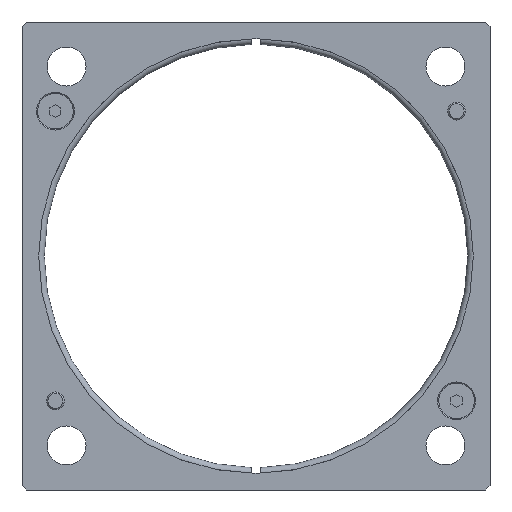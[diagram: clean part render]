
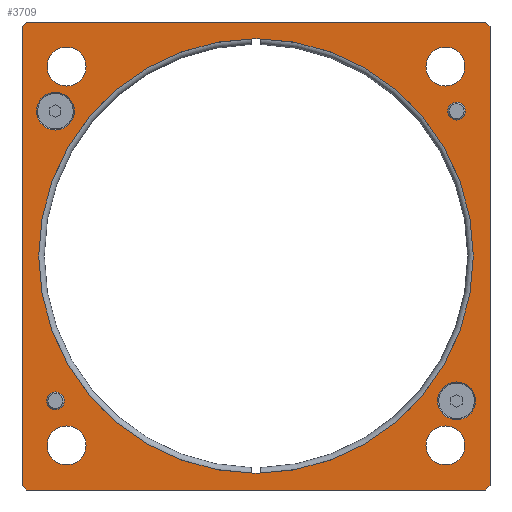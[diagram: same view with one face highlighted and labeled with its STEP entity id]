
A CAD part, front view. The second image highlights one B-rep face of the part: STEP entity #3709.
In plain terms, the highlighted planar face has unit normal (0, -1, 0) as drawn and (0, 0, -1) by its records, which use the part's own axes.
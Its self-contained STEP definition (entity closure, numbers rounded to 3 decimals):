
#142=FACE_BOUND('',#445,.T.);
#143=FACE_BOUND('',#446,.T.);
#144=FACE_BOUND('',#447,.T.);
#145=FACE_BOUND('',#448,.T.);
#146=FACE_BOUND('',#449,.T.);
#147=FACE_BOUND('',#450,.T.);
#148=FACE_BOUND('',#451,.T.);
#149=FACE_BOUND('',#452,.T.);
#150=FACE_BOUND('',#453,.T.);
#176=CIRCLE('',#3991,97.5);
#184=CIRCLE('',#4001,8.5);
#186=CIRCLE('',#4004,8.5);
#187=CIRCLE('',#4005,4.);
#188=CIRCLE('',#4006,4.);
#189=CIRCLE('',#4007,8.75);
#190=CIRCLE('',#4008,8.75);
#191=CIRCLE('',#4009,8.75);
#192=CIRCLE('',#4010,8.75);
#234=FACE_OUTER_BOUND('',#444,.T.);
#444=EDGE_LOOP('',(#2510,#2511,#2512,#2513,#2514,#2515,#2516,#2517));
#445=EDGE_LOOP('',(#2518));
#446=EDGE_LOOP('',(#2519));
#447=EDGE_LOOP('',(#2520));
#448=EDGE_LOOP('',(#2521));
#449=EDGE_LOOP('',(#2522));
#450=EDGE_LOOP('',(#2523));
#451=EDGE_LOOP('',(#2524));
#452=EDGE_LOOP('',(#2525));
#453=EDGE_LOOP('',(#2526));
#687=LINE('',#4952,#1030);
#688=LINE('',#4954,#1031);
#689=LINE('',#4956,#1032);
#690=LINE('',#4958,#1033);
#691=LINE('',#4960,#1034);
#692=LINE('',#4962,#1035);
#693=LINE('',#4964,#1036);
#694=LINE('',#4965,#1037);
#1030=VECTOR('',#4201,10.);
#1031=VECTOR('',#4202,10.);
#1032=VECTOR('',#4203,10.);
#1033=VECTOR('',#4204,10.);
#1034=VECTOR('',#4205,10.);
#1035=VECTOR('',#4206,10.);
#1036=VECTOR('',#4207,10.);
#1037=VECTOR('',#4208,10.);
#1552=VERTEX_POINT('',#4928);
#1556=VERTEX_POINT('',#4944);
#1558=VERTEX_POINT('',#4950);
#1559=VERTEX_POINT('',#4951);
#1560=VERTEX_POINT('',#4953);
#1561=VERTEX_POINT('',#4955);
#1562=VERTEX_POINT('',#4957);
#1563=VERTEX_POINT('',#4959);
#1564=VERTEX_POINT('',#4961);
#1565=VERTEX_POINT('',#4963);
#1566=VERTEX_POINT('',#4966);
#1567=VERTEX_POINT('',#4968);
#1568=VERTEX_POINT('',#4970);
#1569=VERTEX_POINT('',#4972);
#1570=VERTEX_POINT('',#4974);
#1571=VERTEX_POINT('',#4976);
#1572=VERTEX_POINT('',#4978);
#1925=EDGE_CURVE('',#1552,#1552,#176,.T.);
#1935=EDGE_CURVE('',#1556,#1556,#184,.T.);
#1938=EDGE_CURVE('',#1558,#1559,#687,.T.);
#1939=EDGE_CURVE('',#1558,#1560,#688,.T.);
#1940=EDGE_CURVE('',#1561,#1560,#689,.T.);
#1941=EDGE_CURVE('',#1561,#1562,#690,.T.);
#1942=EDGE_CURVE('',#1563,#1562,#691,.T.);
#1943=EDGE_CURVE('',#1563,#1564,#692,.T.);
#1944=EDGE_CURVE('',#1565,#1564,#693,.T.);
#1945=EDGE_CURVE('',#1565,#1559,#694,.T.);
#1946=EDGE_CURVE('',#1566,#1566,#186,.T.);
#1947=EDGE_CURVE('',#1567,#1567,#187,.T.);
#1948=EDGE_CURVE('',#1568,#1568,#188,.T.);
#1949=EDGE_CURVE('',#1569,#1569,#189,.T.);
#1950=EDGE_CURVE('',#1570,#1570,#190,.T.);
#1951=EDGE_CURVE('',#1571,#1571,#191,.T.);
#1952=EDGE_CURVE('',#1572,#1572,#192,.T.);
#2510=ORIENTED_EDGE('',*,*,#1938,.F.);
#2511=ORIENTED_EDGE('',*,*,#1939,.T.);
#2512=ORIENTED_EDGE('',*,*,#1940,.F.);
#2513=ORIENTED_EDGE('',*,*,#1941,.T.);
#2514=ORIENTED_EDGE('',*,*,#1942,.F.);
#2515=ORIENTED_EDGE('',*,*,#1943,.T.);
#2516=ORIENTED_EDGE('',*,*,#1944,.F.);
#2517=ORIENTED_EDGE('',*,*,#1945,.T.);
#2518=ORIENTED_EDGE('',*,*,#1946,.F.);
#2519=ORIENTED_EDGE('',*,*,#1947,.T.);
#2520=ORIENTED_EDGE('',*,*,#1948,.T.);
#2521=ORIENTED_EDGE('',*,*,#1925,.T.);
#2522=ORIENTED_EDGE('',*,*,#1949,.T.);
#2523=ORIENTED_EDGE('',*,*,#1950,.T.);
#2524=ORIENTED_EDGE('',*,*,#1951,.T.);
#2525=ORIENTED_EDGE('',*,*,#1952,.T.);
#2526=ORIENTED_EDGE('',*,*,#1935,.F.);
#3604=PLANE('',#4003);
#3709=ADVANCED_FACE('',(#234,#142,#143,#144,#145,#146,#147,#148,#149,#150),
#3604,.F.);
#3991=AXIS2_PLACEMENT_3D('',#4929,#4172,#4173);
#4001=AXIS2_PLACEMENT_3D('',#4945,#4194,#4195);
#4003=AXIS2_PLACEMENT_3D('',#4949,#4199,#4200);
#4004=AXIS2_PLACEMENT_3D('',#4967,#4209,#4210);
#4005=AXIS2_PLACEMENT_3D('',#4969,#4211,#4212);
#4006=AXIS2_PLACEMENT_3D('',#4971,#4213,#4214);
#4007=AXIS2_PLACEMENT_3D('',#4973,#4215,#4216);
#4008=AXIS2_PLACEMENT_3D('',#4975,#4217,#4218);
#4009=AXIS2_PLACEMENT_3D('',#4977,#4219,#4220);
#4010=AXIS2_PLACEMENT_3D('',#4979,#4221,#4222);
#4172=DIRECTION('center_axis',(0.,0.,1.));
#4173=DIRECTION('ref_axis',(-1.,0.,0.));
#4194=DIRECTION('center_axis',(0.,0.,-1.));
#4195=DIRECTION('ref_axis',(1.,0.,0.));
#4199=DIRECTION('center_axis',(0.,0.,1.));
#4200=DIRECTION('ref_axis',(1.,0.,0.));
#4201=DIRECTION('',(-0.707,0.707,0.));
#4202=DIRECTION('',(0.,-1.,0.));
#4203=DIRECTION('',(0.707,0.707,0.));
#4204=DIRECTION('',(-1.,0.,0.));
#4205=DIRECTION('',(0.707,-0.707,0.));
#4206=DIRECTION('',(0.,1.,0.));
#4207=DIRECTION('',(-0.707,-0.707,0.));
#4208=DIRECTION('',(1.,0.,0.));
#4209=DIRECTION('center_axis',(0.,0.,-1.));
#4210=DIRECTION('ref_axis',(1.,0.,0.));
#4211=DIRECTION('center_axis',(0.,0.,1.));
#4212=DIRECTION('ref_axis',(1.,0.,0.));
#4213=DIRECTION('center_axis',(0.,0.,1.));
#4214=DIRECTION('ref_axis',(1.,0.,0.));
#4215=DIRECTION('center_axis',(0.,0.,1.));
#4216=DIRECTION('ref_axis',(-1.,0.,0.));
#4217=DIRECTION('center_axis',(0.,0.,1.));
#4218=DIRECTION('ref_axis',(-1.,0.,0.));
#4219=DIRECTION('center_axis',(0.,0.,1.));
#4220=DIRECTION('ref_axis',(-1.,0.,0.));
#4221=DIRECTION('center_axis',(0.,0.,1.));
#4222=DIRECTION('ref_axis',(-1.,0.,0.));
#4928=CARTESIAN_POINT('',(97.5,0.,0.));
#4929=CARTESIAN_POINT('Origin',(0.,0.,0.));
#4944=CARTESIAN_POINT('',(81.5,65.,0.));
#4945=CARTESIAN_POINT('Origin',(90.,65.,0.));
#4949=CARTESIAN_POINT('Origin',(0.,0.,0.));
#4950=CARTESIAN_POINT('',(105.,103.,0.));
#4951=CARTESIAN_POINT('',(103.,105.,0.));
#4952=CARTESIAN_POINT('',(104.,104.,0.));
#4953=CARTESIAN_POINT('',(105.,-103.,0.));
#4954=CARTESIAN_POINT('',(105.,105.,0.));
#4955=CARTESIAN_POINT('',(103.,-105.,0.));
#4956=CARTESIAN_POINT('',(104.,-104.,0.));
#4957=CARTESIAN_POINT('',(-103.,-105.,0.));
#4958=CARTESIAN_POINT('',(105.,-105.,0.));
#4959=CARTESIAN_POINT('',(-105.,-103.,0.));
#4960=CARTESIAN_POINT('',(-104.,-104.,0.));
#4961=CARTESIAN_POINT('',(-105.,103.,0.));
#4962=CARTESIAN_POINT('',(-105.,-105.,0.));
#4963=CARTESIAN_POINT('',(-103.,105.,0.));
#4964=CARTESIAN_POINT('',(-104.,104.,0.));
#4965=CARTESIAN_POINT('',(-105.,105.,0.));
#4966=CARTESIAN_POINT('',(-98.5,-65.,0.));
#4967=CARTESIAN_POINT('Origin',(-90.,-65.,0.));
#4968=CARTESIAN_POINT('',(86.,-65.,0.));
#4969=CARTESIAN_POINT('Origin',(90.,-65.,0.));
#4970=CARTESIAN_POINT('',(-94.,65.,0.));
#4971=CARTESIAN_POINT('Origin',(-90.,65.,0.));
#4972=CARTESIAN_POINT('',(-76.25,-85.,0.));
#4973=CARTESIAN_POINT('Origin',(-85.,-85.,0.));
#4974=CARTESIAN_POINT('',(93.75,-85.,0.));
#4975=CARTESIAN_POINT('Origin',(85.,-85.,0.));
#4976=CARTESIAN_POINT('',(93.75,85.,0.));
#4977=CARTESIAN_POINT('Origin',(85.,85.,0.));
#4978=CARTESIAN_POINT('',(-76.25,85.,0.));
#4979=CARTESIAN_POINT('Origin',(-85.,85.,0.));
